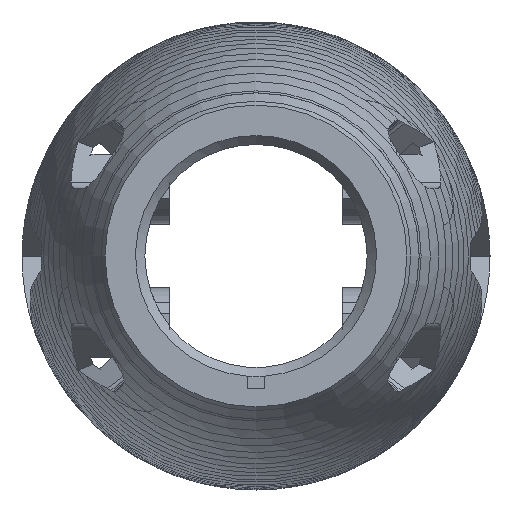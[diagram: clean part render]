
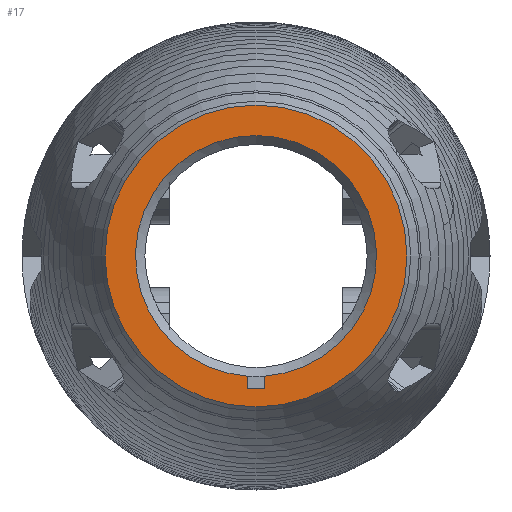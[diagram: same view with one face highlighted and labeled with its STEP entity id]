
A CAD part, left-side view. The second image highlights one B-rep face of the part: STEP entity #17.
In plain terms, the highlighted planar face has unit normal (-1, 0, 0).
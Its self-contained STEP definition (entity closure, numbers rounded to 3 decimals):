
#17 = ADVANCED_FACE('',(#18,#135),#33,.F.);
#18 = FACE_BOUND('',#19,.F.);
#19 = EDGE_LOOP('',(#20,#56,#83,#110));
#20 = ORIENTED_EDGE('',*,*,#21,.F.);
#21 = EDGE_CURVE('',#22,#24,#26,.T.);
#22 = VERTEX_POINT('',#23);
#23 = CARTESIAN_POINT('',(9.9,0.75,-10.273));
#24 = VERTEX_POINT('',#25);
#25 = CARTESIAN_POINT('',(9.9,-0.75,-10.273));
#26 = SURFACE_CURVE('',#27,(#32,#44),.PCURVE_S1.);
#27 = CIRCLE('',#28,10.3);
#28 = AXIS2_PLACEMENT_3D('',#29,#30,#31);
#29 = CARTESIAN_POINT('',(9.9,0.,0.));
#30 = DIRECTION('',(1.,-0.,0.));
#31 = DIRECTION('',(0.,0.073,-0.997));
#32 = PCURVE('',#33,#38);
#33 = PLANE('',#34);
#34 = AXIS2_PLACEMENT_3D('',#35,#36,#37);
#35 = CARTESIAN_POINT('',(9.9,-30.,-30.));
#36 = DIRECTION('',(1.,0.,-0.));
#37 = DIRECTION('',(0.,0.,1.));
#38 = DEFINITIONAL_REPRESENTATION('',(#39),#43);
#39 = CIRCLE('',#40,10.3);
#40 = AXIS2_PLACEMENT_2D('',#41,#42);
#41 = CARTESIAN_POINT('',(30.,-30.));
#42 = DIRECTION('',(-0.997,-0.073));
#43 = ( GEOMETRIC_REPRESENTATION_CONTEXT(2) 
PARAMETRIC_REPRESENTATION_CONTEXT() REPRESENTATION_CONTEXT('2D SPACE',''
  ) );
#44 = PCURVE('',#45,#50);
#45 = CYLINDRICAL_SURFACE('',#46,10.3);
#46 = AXIS2_PLACEMENT_3D('',#47,#48,#49);
#47 = CARTESIAN_POINT('',(8.9,0.,0.));
#48 = DIRECTION('',(1.,0.,0.));
#49 = DIRECTION('',(-0.,0.,1.));
#50 = DEFINITIONAL_REPRESENTATION('',(#51),#55);
#51 = LINE('',#52,#53);
#52 = CARTESIAN_POINT('',(3.214,1.));
#53 = VECTOR('',#54,1.);
#54 = DIRECTION('',(1.,0.));
#55 = ( GEOMETRIC_REPRESENTATION_CONTEXT(2) 
PARAMETRIC_REPRESENTATION_CONTEXT() REPRESENTATION_CONTEXT('2D SPACE',''
  ) );
#56 = ORIENTED_EDGE('',*,*,#57,.T.);
#57 = EDGE_CURVE('',#22,#58,#60,.T.);
#58 = VERTEX_POINT('',#59);
#59 = CARTESIAN_POINT('',(9.9,0.75,-11.3));
#60 = SURFACE_CURVE('',#61,(#65,#72),.PCURVE_S1.);
#61 = LINE('',#62,#63);
#62 = CARTESIAN_POINT('',(9.9,0.75,-5.65));
#63 = VECTOR('',#64,1.);
#64 = DIRECTION('',(0.,0.,-1.));
#65 = PCURVE('',#33,#66);
#66 = DEFINITIONAL_REPRESENTATION('',(#67),#71);
#67 = LINE('',#68,#69);
#68 = CARTESIAN_POINT('',(24.35,-30.75));
#69 = VECTOR('',#70,1.);
#70 = DIRECTION('',(-1.,0.));
#71 = ( GEOMETRIC_REPRESENTATION_CONTEXT(2) 
PARAMETRIC_REPRESENTATION_CONTEXT() REPRESENTATION_CONTEXT('2D SPACE',''
  ) );
#72 = PCURVE('',#73,#78);
#73 = PLANE('',#74);
#74 = AXIS2_PLACEMENT_3D('',#75,#76,#77);
#75 = CARTESIAN_POINT('',(8.9,0.75,-11.3));
#76 = DIRECTION('',(-0.,1.,0.));
#77 = DIRECTION('',(0.,0.,1.));
#78 = DEFINITIONAL_REPRESENTATION('',(#79),#82);
#79 = B_SPLINE_CURVE_WITH_KNOTS('',1,(#80,#81),.UNSPECIFIED.,.F.,.F.,(2,
    2),(4.623,5.65),.PIECEWISE_BEZIER_KNOTS.);
#80 = CARTESIAN_POINT('',(1.027,1.));
#81 = CARTESIAN_POINT('',(0.,1.));
#82 = ( GEOMETRIC_REPRESENTATION_CONTEXT(2) 
PARAMETRIC_REPRESENTATION_CONTEXT() REPRESENTATION_CONTEXT('2D SPACE',''
  ) );
#83 = ORIENTED_EDGE('',*,*,#84,.F.);
#84 = EDGE_CURVE('',#85,#58,#87,.T.);
#85 = VERTEX_POINT('',#86);
#86 = CARTESIAN_POINT('',(9.9,-0.75,-11.3));
#87 = SURFACE_CURVE('',#88,(#92,#99),.PCURVE_S1.);
#88 = LINE('',#89,#90);
#89 = CARTESIAN_POINT('',(9.9,-0.375,-11.3));
#90 = VECTOR('',#91,1.);
#91 = DIRECTION('',(0.,1.,0.));
#92 = PCURVE('',#33,#93);
#93 = DEFINITIONAL_REPRESENTATION('',(#94),#98);
#94 = LINE('',#95,#96);
#95 = CARTESIAN_POINT('',(18.7,-29.625));
#96 = VECTOR('',#97,1.);
#97 = DIRECTION('',(0.,-1.));
#98 = ( GEOMETRIC_REPRESENTATION_CONTEXT(2) 
PARAMETRIC_REPRESENTATION_CONTEXT() REPRESENTATION_CONTEXT('2D SPACE',''
  ) );
#99 = PCURVE('',#100,#105);
#100 = PLANE('',#101);
#101 = AXIS2_PLACEMENT_3D('',#102,#103,#104);
#102 = CARTESIAN_POINT('',(8.9,-0.75,-11.3));
#103 = DIRECTION('',(0.,0.,1.));
#104 = DIRECTION('',(1.,0.,-0.));
#105 = DEFINITIONAL_REPRESENTATION('',(#106),#109);
#106 = B_SPLINE_CURVE_WITH_KNOTS('',1,(#107,#108),.UNSPECIFIED.,.F.,.F.,
  (2,2),(-0.375,1.125),.PIECEWISE_BEZIER_KNOTS.);
#107 = CARTESIAN_POINT('',(1.,0.));
#108 = CARTESIAN_POINT('',(1.,1.5));
#109 = ( GEOMETRIC_REPRESENTATION_CONTEXT(2) 
PARAMETRIC_REPRESENTATION_CONTEXT() REPRESENTATION_CONTEXT('2D SPACE',''
  ) );
#110 = ORIENTED_EDGE('',*,*,#111,.F.);
#111 = EDGE_CURVE('',#24,#85,#112,.T.);
#112 = SURFACE_CURVE('',#113,(#117,#124),.PCURVE_S1.);
#113 = LINE('',#114,#115);
#114 = CARTESIAN_POINT('',(9.9,-0.75,-5.65));
#115 = VECTOR('',#116,1.);
#116 = DIRECTION('',(0.,0.,-1.));
#117 = PCURVE('',#33,#118);
#118 = DEFINITIONAL_REPRESENTATION('',(#119),#123);
#119 = LINE('',#120,#121);
#120 = CARTESIAN_POINT('',(24.35,-29.25));
#121 = VECTOR('',#122,1.);
#122 = DIRECTION('',(-1.,0.));
#123 = ( GEOMETRIC_REPRESENTATION_CONTEXT(2) 
PARAMETRIC_REPRESENTATION_CONTEXT() REPRESENTATION_CONTEXT('2D SPACE',''
  ) );
#124 = PCURVE('',#125,#130);
#125 = PLANE('',#126);
#126 = AXIS2_PLACEMENT_3D('',#127,#128,#129);
#127 = CARTESIAN_POINT('',(8.9,-0.75,-11.3));
#128 = DIRECTION('',(-0.,1.,0.));
#129 = DIRECTION('',(0.,0.,1.));
#130 = DEFINITIONAL_REPRESENTATION('',(#131),#134);
#131 = B_SPLINE_CURVE_WITH_KNOTS('',1,(#132,#133),.UNSPECIFIED.,.F.,.F.,
  (2,2),(4.623,5.65),.PIECEWISE_BEZIER_KNOTS.);
#132 = CARTESIAN_POINT('',(1.027,1.));
#133 = CARTESIAN_POINT('',(0.,1.));
#134 = ( GEOMETRIC_REPRESENTATION_CONTEXT(2) 
PARAMETRIC_REPRESENTATION_CONTEXT() REPRESENTATION_CONTEXT('2D SPACE',''
  ) );
#135 = FACE_BOUND('',#136,.F.);
#136 = EDGE_LOOP('',(#137));
#137 = ORIENTED_EDGE('',*,*,#138,.F.);
#138 = EDGE_CURVE('',#139,#139,#141,.T.);
#139 = VERTEX_POINT('',#140);
#140 = CARTESIAN_POINT('',(9.9,12.898,0.));
#141 = SURFACE_CURVE('',#142,(#147,#158),.PCURVE_S1.);
#142 = CIRCLE('',#143,12.898);
#143 = AXIS2_PLACEMENT_3D('',#144,#145,#146);
#144 = CARTESIAN_POINT('',(9.9,0.,0.));
#145 = DIRECTION('',(-1.,0.,0.));
#146 = DIRECTION('',(0.,1.,0.));
#147 = PCURVE('',#33,#148);
#148 = DEFINITIONAL_REPRESENTATION('',(#149),#157);
#149 = ( BOUNDED_CURVE() B_SPLINE_CURVE(2,(#150,#151,#152,#153,#154,#155
,#156),.UNSPECIFIED.,.T.,.F.) B_SPLINE_CURVE_WITH_KNOTS((1,2,2,2,2,1),(
    -2.094,0.,2.094,4.189,6.283,
8.378),.UNSPECIFIED.) CURVE() GEOMETRIC_REPRESENTATION_ITEM() 
RATIONAL_B_SPLINE_CURVE((1.,0.5,1.,0.5,1.,0.5,1.)) REPRESENTATION_ITEM(
  '') );
#150 = CARTESIAN_POINT('',(30.,-42.898));
#151 = CARTESIAN_POINT('',(7.661,-42.898));
#152 = CARTESIAN_POINT('',(18.83,-23.551));
#153 = CARTESIAN_POINT('',(30.,-4.205));
#154 = CARTESIAN_POINT('',(41.17,-23.551));
#155 = CARTESIAN_POINT('',(52.339,-42.898));
#156 = CARTESIAN_POINT('',(30.,-42.898));
#157 = ( GEOMETRIC_REPRESENTATION_CONTEXT(2) 
PARAMETRIC_REPRESENTATION_CONTEXT() REPRESENTATION_CONTEXT('2D SPACE',''
  ) );
#158 = PCURVE('',#159,#164);
#159 = CONICAL_SURFACE('',#160,12.898,0.504);
#160 = AXIS2_PLACEMENT_3D('',#161,#162,#163);
#161 = CARTESIAN_POINT('',(9.9,0.,0.));
#162 = DIRECTION('',(1.,0.,0.));
#163 = DIRECTION('',(-0.,1.,0.));
#164 = DEFINITIONAL_REPRESENTATION('',(#165),#169);
#165 = LINE('',#166,#167);
#166 = CARTESIAN_POINT('',(6.283,0.));
#167 = VECTOR('',#168,1.);
#168 = DIRECTION('',(-1.,-0.));
#169 = ( GEOMETRIC_REPRESENTATION_CONTEXT(2) 
PARAMETRIC_REPRESENTATION_CONTEXT() REPRESENTATION_CONTEXT('2D SPACE',''
  ) );
